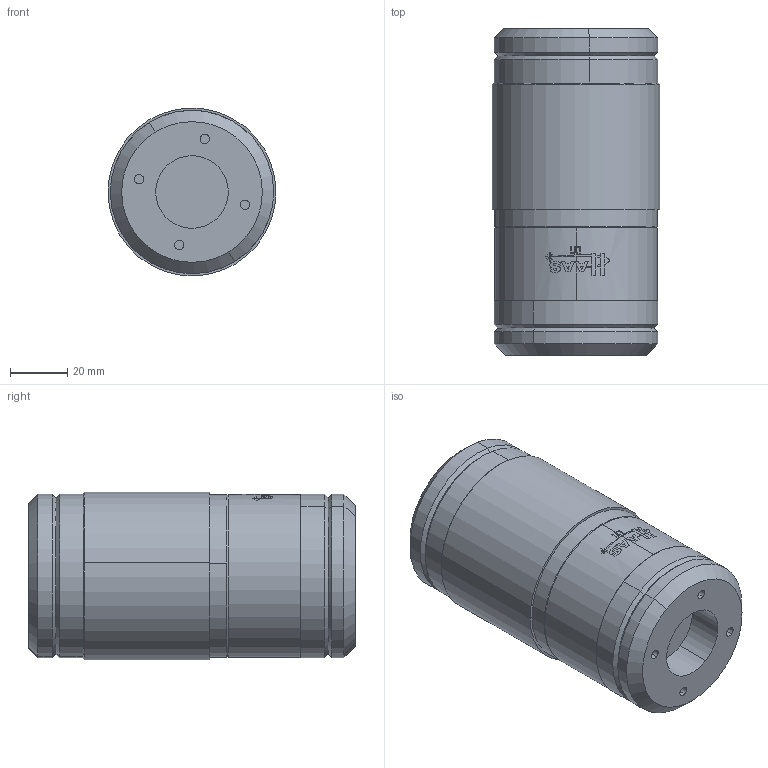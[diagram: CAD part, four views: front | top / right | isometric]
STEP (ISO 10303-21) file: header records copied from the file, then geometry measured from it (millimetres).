
FILE_DESCRIPTION (( 'STEP AP214' ), '1' );
FILE_NAME ('BEC-19-1.5-10.6-S.STEP', '2016-06-23T13:13:36', ( '' ), ( '' ), 'SwSTEP 2.0', 'SolidWorks 2016', '' );
FILE_SCHEMA (( 'AUTOMOTIVE_DESIGN' ));
Length unit declared in the file: inch
Products named in the file (1): BEC-19-1.5-10.6-S
Bounding box: 58.74 x 114.25 x 58.74 mm (x, y, z)
Volume: 283311.9 mm3; surface area: 28545.8 mm2
Topology: 1 solids, 1 shells, 79 faces, 236 edges, 181 vertices
Faces by surface type: cylinder 45, cone 18, plane 16
Entity records: 3560 total; most frequent: CARTESIAN_POINT 1306, ORIENTED_EDGE 472, DIRECTION 457, EDGE_CURVE 236, AXIS2_PLACEMENT_3D 189, VERTEX_POINT 181, CIRCLE 109, EDGE_LOOP 101
